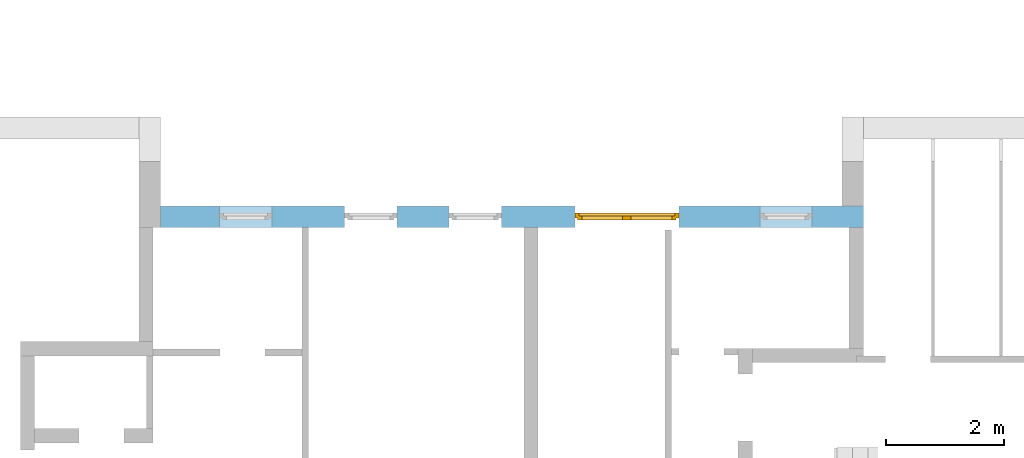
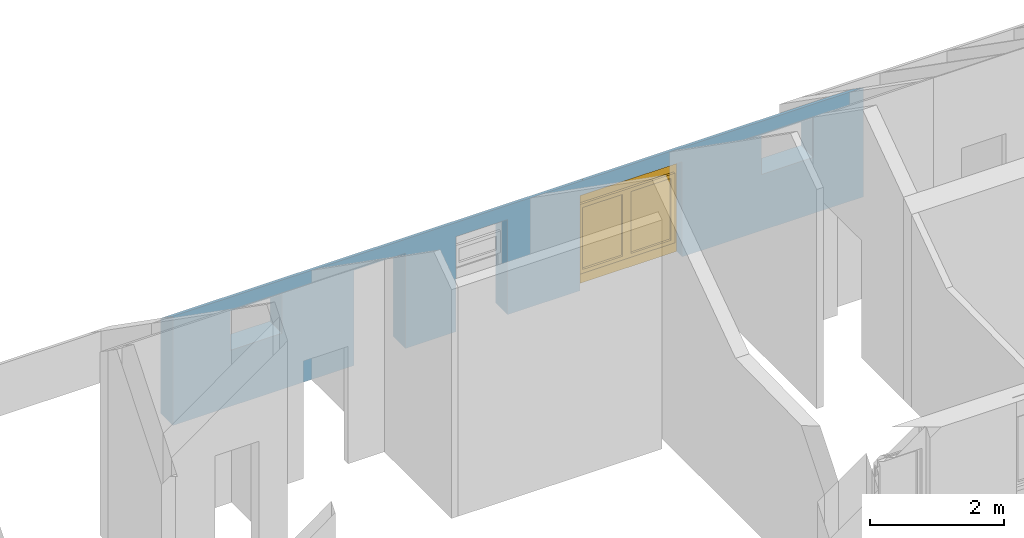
# One storey, part 21 of 23: 1 window, 5 openings, plus 1 element that does not belong to this part.
"""IFC2X3 building model written with IfcOpenShell, lengths in millimetres."""

import ifcopenshell
import ifcopenshell.guid

model = None  # the IFC model being written
_history = None  # IfcOwnerHistory: only IFC2X3 demands one
_inside = {}  # id of a spatial element -> (the spatial element, [elements in it])
_under = {}  # id of a project, library or spatial element -> (it, [spatial elements below it])
_declared = {}  # id of a project -> (the project, [libraries it declares])
_typed = {}  # id of a type object -> (the type object, [elements of that type])
_made_of = {}  # id of a material, layer set ... -> (it, [elements and type objects made of it])


def new_model(schema):
    """Start an empty IFC model of exactly this schema.

    Asked for "IFC4X3", IfcOpenShell would pick the latest addendum, in which some entities
    have other attributes; the version numbers below select the first issue.
    IFC2X3 requires an IfcOwnerHistory on every rooted entity: one is made here for all.
    """
    global model, _history
    if schema == "IFC4X3":
        model = ifcopenshell.file(schema_version=(4, 3, 0, 0))
    else:
        model = ifcopenshell.file(schema=schema)
    _inside.clear()
    _under.clear()
    _declared.clear()
    _typed.clear()
    _made_of.clear()
    _history = None
    if model.schema == "IFC2X3":
        org = make("IfcOrganization", Name="unknown")
        user = make(
            "IfcPersonAndOrganization",
            ThePerson=make("IfcPerson", FamilyName="unknown"),
            TheOrganization=org,
        )
        app = make(
            "IfcApplication",
            ApplicationDeveloper=org,
            Version="unknown",
            ApplicationFullName="unknown",
            ApplicationIdentifier="unknown",
        )
        _history = make(
            "IfcOwnerHistory",
            OwningUser=user,
            OwningApplication=app,
            ChangeAction="ADDED",
            CreationDate=0,
        )
    return model


def make(cls, **values):
    """One entity of the class cls with the attributes given. An attribute that is None is left unset."""
    return model.create_entity(
        cls, **{name: value for name, value in values.items() if value is not None}
    )


def entity(cls, *values):
    """Any entity or typed value of the class cls, its attributes in the order of the schema. None: left unset."""
    e = model.create_entity(cls)
    for i, value in enumerate(values):
        if value is not None:
            e[i] = value
    return e


def rooted(cls, **values):
    """An entity with a GlobalId (a new one), such as an element, a storey or a relation."""
    return make(cls, GlobalId=ifcopenshell.guid.new(), OwnerHistory=_history, **values)


def si_unit(unit_type, name, prefix=None):
    """IfcSIUnit, for example si_unit("LENGTHUNIT", "METRE", prefix="MILLI")."""
    return make("IfcSIUnit", UnitType=unit_type, Prefix=prefix, Name=name)


def converted_unit(unit_type, name, factor, base, dimensions=None, offset=None):
    """IfcConversionBasedUnit, such as the inch: factor (a typed value) times the base unit."""
    return make(
        "IfcConversionBasedUnit"
        if offset is None
        else "IfcConversionBasedUnitWithOffset",
        ConversionOffset=offset,
        Dimensions=None
        if dimensions is None
        else entity("IfcDimensionalExponents", *dimensions),
        UnitType=unit_type,
        Name=name,
        ConversionFactor=make(
            "IfcMeasureWithUnit", ValueComponent=factor, UnitComponent=base
        ),
    )


def assignment(units):
    """IfcUnitAssignment: the units of a project."""
    return None if units is None else make("IfcUnitAssignment", Units=units)


def point(xyz):
    """IfcCartesianPoint."""
    return None if xyz is None else make("IfcCartesianPoint", Coordinates=xyz)


def direction(xyz):
    """IfcDirection."""
    return None if xyz is None else make("IfcDirection", DirectionRatios=xyz)


def frame(location, z_axis=None, x_axis=None):
    """IfcAxis2Placement3D, a coordinate frame: its origin and axes. An axis left out is left unset."""
    return make(
        "IfcAxis2Placement3D",
        Location=point(location),
        Axis=direction(z_axis),
        RefDirection=direction(x_axis),
    )


def frame_2d(location, x_axis=None):
    """IfcAxis2Placement2D, a coordinate frame in the plane: its origin and x axis."""
    return make(
        "IfcAxis2Placement2D", Location=point(location), RefDirection=direction(x_axis)
    )


def origin():
    """The frame at (0, 0, 0) with its axes left unset."""
    return frame((0.0, 0.0, 0.0))


def origin_with_axes():
    """The frame at (0, 0, 0) with the z axis (0, 0, 1) and the x axis (1, 0, 0) written out."""
    return frame((0.0, 0.0, 0.0), z_axis=(0.0, 0.0, 1.0), x_axis=(1.0, 0.0, 0.0))


def place(relative_to, where):
    """IfcLocalPlacement: puts the frame where relative to a parent placement (None: the world)."""
    return make(
        "IfcLocalPlacement", PlacementRelTo=relative_to, RelativePlacement=where
    )


def context(
    kind, dimensions, precision=None, world=None, true_north=None, identifier=None
):
    """IfcGeometricRepresentationContext, for example the 3D "Model" context."""
    return make(
        "IfcGeometricRepresentationContext",
        ContextIdentifier=identifier,
        ContextType=kind,
        CoordinateSpaceDimension=dimensions,
        Precision=precision,
        WorldCoordinateSystem=world,
        TrueNorth=true_north,
    )


def subcontext(parent, identifier, kind, view, scale=None):
    """IfcGeometricRepresentationSubContext, for example "Body" below "Model"."""
    return make(
        "IfcGeometricRepresentationSubContext",
        ContextIdentifier=identifier,
        ContextType=kind,
        ParentContext=parent,
        TargetScale=scale,
        TargetView=view,
    )


def project(units=None, contexts=None):
    """IfcProject with its units and contexts."""
    return rooted(
        "IfcProject",
        Name="project",
        RepresentationContexts=contexts,
        UnitsInContext=assignment(units),
    )


def spatial(cls, under=None, at=None, **own):
    """A site, building, storey or space (cls), placed at a placement, below another one or the project."""
    s = rooted(cls, ObjectPlacement=at, **own)
    if under is not None:
        _under.setdefault(under.id(), (under, []))[1].append(s)
    return s


def profile(cls, at=None, kind="AREA", **sizes):
    """A parametric profile (cls). Its sizes go by their IFC names, for example OverallWidth=200.0."""
    return make(cls, ProfileType=kind, Position=at, **sizes)


def rectangle(**sizes):
    """IfcRectangleProfileDef."""
    return profile("IfcRectangleProfileDef", **sizes)


def extrude(swept, where, along, depth):
    """IfcExtrudedAreaSolid: the profile swept, set in the frame where, extruded along a direction by depth."""
    return make(
        "IfcExtrudedAreaSolid",
        SweptArea=swept,
        Position=where,
        ExtrudedDirection=direction(along),
        Depth=depth,
    )


def clip(a, b, op="DIFFERENCE"):
    """IfcBooleanClippingResult: the solid a cut by the half space b."""
    return make(
        "IfcBooleanClippingResult", Operator=op, FirstOperand=a, SecondOperand=b
    )


def halfspace(plane, agree):
    """IfcHalfSpaceSolid: all space on one side of the plane z = 0 of the frame plane."""
    return make(
        "IfcHalfSpaceSolid",
        BaseSurface=make("IfcPlane", Position=plane),
        AgreementFlag=agree,
    )


def faces_of(points, faces, orient=None, outer=None):
    """IfcFace entities. A face is a list of loops; a loop is a list of indices into points, from 0.

    orient and outer hold one flag for each loop. By default every Orientation is true, the
    first loop of a face is its IfcFaceOuterBound and the others are IfcFaceBound.
    """
    made = []
    for i, loops in enumerate(faces):
        bounds = []
        for j, loop in enumerate(loops):
            is_outer = j == 0 if outer is None else outer[i][j]
            bounds.append(
                make(
                    "IfcFaceOuterBound" if is_outer else "IfcFaceBound",
                    Bound=make("IfcPolyLoop", Polygon=[points[k] for k in loop]),
                    Orientation=True if orient is None else orient[i][j],
                )
            )
        made.append(make("IfcFace", Bounds=bounds))
    return made


def faceted_brep(points, faces, orient=None, outer=None, voids=None):
    """IfcFacetedBrep: a solid bounded by flat faces; with voids (closed shells), ...WithVoids."""
    shared = [point(p) for p in points]
    hull = make("IfcClosedShell", CfsFaces=faces_of(shared, faces, orient, outer))
    if voids is None:
        return make("IfcFacetedBrep", Outer=hull)
    return make(
        "IfcFacetedBrepWithVoids",
        Outer=hull,
        Voids=[
            make(cls, CfsFaces=faces_of(shared, fs, o, b)) for cls, fs, o, b in voids
        ],
    )


def shape(context_of_items, identifier, shape_type, items):
    """IfcShapeRepresentation: the items that make up one representation, for example the "Body"."""
    return make(
        "IfcShapeRepresentation",
        ContextOfItems=context_of_items,
        RepresentationIdentifier=identifier,
        RepresentationType=shape_type,
        Items=items,
    )


def material(Name=None, Category=None):
    """IfcMaterial."""
    return make("IfcMaterial", Name=Name, Category=Category)


def layer(
    of_material, thickness, ventilated=None, Name=None, Category=None, Priority=None
):
    """IfcMaterialLayer: one layer of a wall or slab, of a material (None: an air gap)."""
    return make(
        "IfcMaterialLayer",
        Material=of_material,
        LayerThickness=thickness,
        IsVentilated=ventilated,
        Name=Name,
        Category=Category,
        Priority=Priority,
    )


def layer_set(layers, Name=None):
    """IfcMaterialLayerSet."""
    return make("IfcMaterialLayerSet", MaterialLayers=layers, LayerSetName=Name)


def layer_usage(for_layer_set, set_direction, sense, offset, extent=None):
    """IfcMaterialLayerSetUsage: how a layer set lies in its element."""
    return make(
        "IfcMaterialLayerSetUsage",
        ForLayerSet=for_layer_set,
        LayerSetDirection=set_direction,
        DirectionSense=sense,
        OffsetFromReferenceLine=offset,
        ReferenceExtent=extent,
    )


def made_of(thing, what):
    """Note that an element or type object is made of a material, layer set ...; save() writes the relation."""
    if what is not None:
        _made_of.setdefault(what.id(), (what, []))[1].append(thing)
    return thing


def type_object(cls, material=None, **own):
    """A type object (cls), such as IfcWallType, which elements share."""
    return made_of(rooted(cls, **own), material)


def element(
    cls,
    number,
    at=None,
    inside=None,
    cuts=None,
    type_object=None,
    material=None,
    context=None,
    identifier="Body",
    shape_type=None,
    held_by="IfcProductDefinitionShape",
    body=None,
    shapes=None,
    **own,
):
    """One element of the class cls, such as IfcWall. Its Tag is "e" and its number.

    at: its placement. inside: the storey or other place that contains it. cuts: it is an
    opening in that element (IfcRelVoidsElement). A single representation is given by context,
    identifier, shape_type and body (its items); several are given by shapes. held_by: the class
    of the entity that holds the representations. save() writes the other relations.
    """
    e = rooted(cls, Tag="e%d" % number, ObjectPlacement=at, **own)
    if body is not None:
        shapes = [shape(context, identifier, shape_type, body)]
    if shapes is not None:
        e.Representation = make(held_by, Representations=shapes)
    if inside is not None:
        _inside.setdefault(inside.id(), (inside, []))[1].append(e)
    if cuts is not None:
        rooted(
            "IfcRelVoidsElement", RelatingBuildingElement=cuts, RelatedOpeningElement=e
        )
    if type_object is not None:
        _typed.setdefault(type_object.id(), (type_object, []))[1].append(e)
    return made_of(e, material)


def fill(opening, filler):
    """IfcRelFillsElement: the door or window that sits in an opening."""
    return rooted(
        "IfcRelFillsElement",
        RelatingOpeningElement=opening,
        RelatedBuildingElement=filler,
    )


def aggregate(whole, parts):
    """IfcRelAggregates: a whole, such as a stair, and the parts it consists of."""
    return rooted("IfcRelAggregates", RelatingObject=whole, RelatedObjects=parts)


def save(model, path):
    """Write the relations noted so far, then the file.

    IfcRelAggregates (storeys below a building ...), IfcRelContainedInSpatialStructure (elements
    in a storey), IfcRelDefinesByType, IfcRelAssociatesMaterial and IfcRelDeclares: one each for
    every whole, place, type object, material and project.
    """
    for whole, parts in _under.values():
        aggregate(whole, parts)
    for where, things in _inside.values():
        rooted(
            "IfcRelContainedInSpatialStructure",
            RelatedElements=things,
            RelatingStructure=where,
        )
    for kind, things in _typed.values():
        rooted("IfcRelDefinesByType", RelatedObjects=things, RelatingType=kind)
    for what, things in _made_of.values():
        rooted("IfcRelAssociatesMaterial", RelatedObjects=things, RelatingMaterial=what)
    for by, libraries in _declared.values():
        rooted("IfcRelDeclares", RelatingContext=by, RelatedDefinitions=libraries)
    model.write(path)


model = new_model("IFC2X3")

# Units and contexts
model_context = context("Model", 3, precision=1e-05, world=origin())
body_context = subcontext(model_context, "Body", "Model", "MODEL_VIEW")
ifc_project = project(units=[si_unit("LENGTHUNIT", "METRE", prefix="MILLI"), converted_unit("PLANEANGLEUNIT", "DEGREE", entity("IfcPlaneAngleMeasure", 0.0174532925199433), si_unit("PLANEANGLEUNIT", "RADIAN"), dimensions=[0, 0, 0, 0, 0, 0, 0]), si_unit("AREAUNIT", "SQUARE_METRE"), si_unit("VOLUMEUNIT", "CUBIC_METRE")], contexts=[model_context])

# Building, storey
building_placement = place(None, origin())
building = spatial("IfcBuilding", under=ifc_project, at=building_placement, Name="Gebäude", CompositionType="ELEMENT")
storey_placement = place(building_placement, frame((0.0, 0.0, 5580.0), z_axis=(0.0, 0.0, 1.0), x_axis=(1.0, 0.0, 0.0)))
storey = spatial("IfcBuildingStorey", under=building, at=storey_placement, Name="DG.- Grundriss", CompositionType="ELEMENT", Elevation=5580.0)

# Wall, openings, window
ifc_material_1 = material(Name="Poroton")
ifc_layer = layer(ifc_material_1, 365.0000000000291)
ifc_layer_set = layer_set([ifc_layer])
ifc_layer_usage = layer_usage(ifc_layer_set, "AXIS2", "POSITIVE", 0.0)
wall_placement = place(storey_placement, frame((176237.7928067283, 134774.8877324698, 0.0), z_axis=(0.0, 0.0, 1.0), x_axis=(-1.0, 0.0, 0.0)))
wall = element("IfcWallStandardCase", 1, at=wall_placement, inside=storey, material=ifc_layer_usage, Name="<Unnamed Element>", context=body_context, shape_type="Clipping", body=[
    clip(extrude(rectangle(XDim=11869.99999999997, YDim=365.0000000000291, at=frame_2d((5934.999999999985, 182.5000000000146), x_axis=(1.0, 0.0))), origin_with_axes(), (0.0, 0.0, 1.0), 1985.88705876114), halfspace(frame((0.0, 0.0, 1730.311307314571), z_axis=(3.082338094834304e-17, 0.5735764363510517, -0.8191520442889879), x_axis=(1.0, 0.0, 0.0)), True)),
])
opening_1_placement = place(wall_placement, frame((7875.000000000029, 0.0, 0.0), z_axis=(0.0, 1.0, 0.0), x_axis=(0.0, 0.0, 1.0)))
element("IfcOpeningElement", 2, at=opening_1_placement, cuts=wall, Name="Fensteröffnung", ObjectType="Opening", context=body_context, shape_type="SweptSolid", body=[
    extrude(rectangle(XDim=1730.311307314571, YDim=885.0, at=frame_2d((865.1556536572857, 442.5), x_axis=(1.0, 0.0))), origin_with_axes(), (0.0, 0.0, 1.0), 365.0000000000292),
])
opening_2_placement = place(wall_placement, frame((6115.000000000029, 0.0, 0.0), z_axis=(0.0, 1.0, 0.0), x_axis=(0.0, 0.0, 1.0)))
element("IfcOpeningElement", 3, at=opening_2_placement, cuts=wall, Name="Fensteröffnung", ObjectType="Opening", context=body_context, shape_type="SweptSolid", body=[
    extrude(rectangle(XDim=1730.311307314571, YDim=885.0, at=frame_2d((865.1556536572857, 442.5), x_axis=(1.0, 0.0))), origin_with_axes(), (0.0, 0.0, 1.0), 365.0000000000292),
])
opening_3_placement = place(wall_placement, frame((9990.00000000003, 0.0, 1020.0), z_axis=(0.0, 1.0, 0.0), x_axis=(0.0, 0.0, 1.0)))
element("IfcOpeningElement", 4, at=opening_3_placement, cuts=wall, Name="Fensteröffnung", ObjectType="Opening", context=body_context, shape_type="SweptSolid", body=[
    extrude(rectangle(XDim=710.3113073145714, YDim=885.0, at=frame_2d((355.1556536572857, 442.5), x_axis=(1.0, 0.0))), origin_with_axes(), (0.0, 0.0, 1.0), 365.0000000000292),
])
opening_4_placement = place(wall_placement, frame((3115.000000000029, 0.0, 0.0), z_axis=(0.0, 1.0, 0.0), x_axis=(0.0, 0.0, 1.0)))
opening_4 = element("IfcOpeningElement", 5, at=opening_4_placement, cuts=wall, Name="Fensteröffnung", ObjectType="Opening", context=body_context, shape_type="SweptSolid", body=[
    extrude(rectangle(XDim=1730.311307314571, YDim=1760.0, at=frame_2d((865.1556536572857, 880.0), x_axis=(1.0, 0.0))), origin_with_axes(), (0.0, 0.0, 1.0), 365.0000000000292),
])
opening_5_placement = place(wall_placement, frame((865.0000000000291, 0.0, 1020.0), z_axis=(0.0, 1.0, 0.0), x_axis=(0.0, 0.0, 1.0)))
element("IfcOpeningElement", 6, at=opening_5_placement, cuts=wall, Name="Fensteröffnung", ObjectType="Opening", context=body_context, shape_type="SweptSolid", body=[
    extrude(rectangle(XDim=710.3113073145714, YDim=885.0, at=frame_2d((355.1556536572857, 442.5), x_axis=(1.0, 0.0))), origin_with_axes(), (0.0, 0.0, 1.0), 365.0000000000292),
])
ifc_material_2 = material()
window_style = type_object("IfcWindowStyle", Name="Fenster", ConstructionType="NOTDEFINED", OperationType="USERDEFINED", ParameterTakesPrecedence=False, Sizeable=False)
window_placement = place(opening_4_placement, frame((0.0, 0.0, 0.0), z_axis=(1.0, 0.0, 0.0), x_axis=(0.0, 1.0, 0.0)))
window = element("IfcWindow", 7, at=window_placement, inside=storey, type_object=window_style, material=ifc_material_2, Name="Fenster", OverallHeight=1985.887058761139, OverallWidth=1760.0, context=body_context, shape_type="Brep", body=[
    faceted_brep([(9.79717439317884e-15, 200.0000000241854, 1814.336211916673), (9.797174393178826e-15, 200.0000000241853, -2.449293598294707e-15), (70.00000000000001, 200.0000000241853, -2.449293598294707e-15), (70.00000000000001, 200.0000000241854, 1814.336211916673), (0.0, 120.0000000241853, 2.449293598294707e-15), (1.392262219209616e-29, 120.0000000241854, 1814.336211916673), (70.0, 120.0000000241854, 1814.336211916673), (70.0, 120.0000000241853, 2.449293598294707e-15), (9.797174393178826e-15, 200.0000000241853, -2.449293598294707e-15), (9.79717439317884e-15, 200.0000000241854, 1814.336211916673), (1.392262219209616e-29, 120.0000000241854, 1814.336211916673), (0.0, 120.0000000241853, 2.449293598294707e-15), (70.00000000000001, 200.0000000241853, -2.449293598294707e-15), (9.797174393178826e-15, 200.0000000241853, -2.449293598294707e-15), (0.0, 120.0000000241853, 2.449293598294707e-15), (70.0, 120.0000000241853, 2.449293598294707e-15), (70.00000000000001, 200.0000000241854, 1814.336211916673), (70.00000000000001, 200.0000000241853, -2.449293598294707e-15), (70.0, 120.0000000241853, 2.449293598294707e-15), (70.0, 120.0000000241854, 1814.336211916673), (9.79717439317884e-15, 200.0000000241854, 1814.336211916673), (70.00000000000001, 200.0000000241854, 1814.336211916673), (70.0, 120.0000000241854, 1814.336211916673), (1.392262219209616e-29, 120.0000000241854, 1814.336211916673)], [[[0, 1, 2, 3]], [[4, 5, 6, 7]], [[8, 9, 10, 11]], [[12, 13, 14, 15]], [[16, 17, 18, 19]], [[20, 21, 22, 23]]], orient=[[False], [False], [False], [False], [False], [False]]),
    faceted_brep([(1690.000000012, 200.0000000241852, 1814.336211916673), (1690.000000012, 200.0000000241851, -2.449293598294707e-15), (1760.000000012, 200.0000000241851, -2.449293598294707e-15), (1760.000000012, 200.0000000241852, 1814.336211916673), (1690.000000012, 120.0000000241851, 2.449293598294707e-15), (1690.000000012, 120.0000000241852, 1814.336211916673), (1760.000000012, 120.0000000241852, 1814.336211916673), (1760.000000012, 120.0000000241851, 2.449293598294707e-15), (1690.000000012, 200.0000000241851, -2.449293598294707e-15), (1690.000000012, 200.0000000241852, 1814.336211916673), (1690.000000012, 120.0000000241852, 1814.336211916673), (1690.000000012, 120.0000000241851, 2.449293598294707e-15), (1760.000000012, 200.0000000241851, -2.449293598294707e-15), (1690.000000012, 200.0000000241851, -2.449293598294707e-15), (1690.000000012, 120.0000000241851, 2.449293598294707e-15), (1760.000000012, 120.0000000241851, 2.449293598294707e-15), (1760.000000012, 200.0000000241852, 1814.336211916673), (1760.000000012, 200.0000000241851, -2.449293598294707e-15), (1760.000000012, 120.0000000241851, 2.449293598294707e-15), (1760.000000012, 120.0000000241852, 1814.336211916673), (1690.000000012, 200.0000000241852, 1814.336211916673), (1760.000000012, 200.0000000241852, 1814.336211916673), (1760.000000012, 120.0000000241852, 1814.336211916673), (1690.000000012, 120.0000000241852, 1814.336211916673)], [[[0, 1, 2, 3]], [[4, 5, 6, 7]], [[8, 9, 10, 11]], [[12, 13, 14, 15]], [[16, 17, 18, 19]], [[20, 21, 22, 23]]], orient=[[False], [False], [False], [False], [False], [False]]),
    faceted_brep([(70.00000000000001, 200.0000000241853, 220.0), (70.00000000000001, 200.0000000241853, -2.449293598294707e-15), (1690.000000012, 200.0000000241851, -2.449293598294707e-15), (1690.000000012, 200.0000000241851, 220.0), (70.0, 120.0000000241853, 2.449293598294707e-15), (70.0, 120.0000000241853, 220.0), (1690.000000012, 120.0000000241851, 220.0), (1690.000000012, 120.0000000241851, 2.449293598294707e-15), (70.00000000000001, 200.0000000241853, -2.449293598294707e-15), (70.00000000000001, 200.0000000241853, 220.0), (70.0, 120.0000000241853, 220.0), (70.0, 120.0000000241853, 2.449293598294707e-15), (1690.000000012, 200.0000000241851, -2.449293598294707e-15), (70.00000000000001, 200.0000000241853, -2.449293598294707e-15), (70.0, 120.0000000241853, 2.449293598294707e-15), (1690.000000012, 120.0000000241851, 2.449293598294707e-15), (1690.000000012, 200.0000000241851, 220.0), (1690.000000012, 200.0000000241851, -2.449293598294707e-15), (1690.000000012, 120.0000000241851, 2.449293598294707e-15), (1690.000000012, 120.0000000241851, 220.0), (70.00000000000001, 200.0000000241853, 220.0), (1690.000000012, 200.0000000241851, 220.0), (1690.000000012, 120.0000000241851, 220.0), (70.0, 120.0000000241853, 220.0)], [[[0, 1, 2, 3]], [[4, 5, 6, 7]], [[8, 9, 10, 11]], [[12, 13, 14, 15]], [[16, 17, 18, 19]], [[20, 21, 22, 23]]], orient=[[False], [False], [False], [False], [False], [False]]),
    faceted_brep([(70.00000000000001, 200.0000000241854, 1814.336211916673), (70.00000000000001, 200.0000000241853, 1444.336211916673), (1690.000000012, 200.0000000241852, 1444.336211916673), (1690.000000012, 200.0000000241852, 1814.336211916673), (70.0, 120.0000000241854, 1444.336211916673), (70.0, 120.0000000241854, 1814.336211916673), (1690.000000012, 120.0000000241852, 1814.336211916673), (1690.000000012, 120.0000000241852, 1444.336211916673), (70.00000000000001, 200.0000000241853, 1444.336211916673), (70.00000000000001, 200.0000000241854, 1814.336211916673), (70.0, 120.0000000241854, 1814.336211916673), (70.0, 120.0000000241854, 1444.336211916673), (1690.000000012, 200.0000000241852, 1444.336211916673), (70.00000000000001, 200.0000000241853, 1444.336211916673), (70.0, 120.0000000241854, 1444.336211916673), (1690.000000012, 120.0000000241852, 1444.336211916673), (1690.000000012, 200.0000000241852, 1814.336211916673), (1690.000000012, 200.0000000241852, 1444.336211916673), (1690.000000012, 120.0000000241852, 1444.336211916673), (1690.000000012, 120.0000000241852, 1814.336211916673), (70.00000000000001, 200.0000000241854, 1814.336211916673), (1690.000000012, 200.0000000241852, 1814.336211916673), (1690.000000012, 120.0000000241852, 1814.336211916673), (70.0, 120.0000000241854, 1814.336211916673)], [[[0, 1, 2, 3]], [[4, 5, 6, 7]], [[8, 9, 10, 11]], [[12, 13, 14, 15]], [[16, 17, 18, 19]], [[20, 21, 22, 23]]], orient=[[False], [False], [False], [False], [False], [False]]),
    faceted_brep([(50.00000000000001, 240.0000000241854, 1464.336211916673), (50.00000000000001, 240.0000000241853, 200.0), (120.0, 240.0000000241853, 200.0), (120.0, 240.0000000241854, 1464.336211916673), (50.00000000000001, 170.0000000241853, 200.0), (50.00000000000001, 170.0000000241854, 1464.336211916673), (120.0, 170.0000000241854, 1464.336211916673), (120.0, 170.0000000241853, 200.0), (50.00000000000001, 240.0000000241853, 200.0), (50.00000000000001, 240.0000000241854, 1464.336211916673), (50.00000000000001, 170.0000000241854, 1464.336211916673), (50.00000000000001, 170.0000000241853, 200.0), (120.0, 240.0000000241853, 200.0), (50.00000000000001, 240.0000000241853, 200.0), (50.00000000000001, 170.0000000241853, 200.0), (120.0, 170.0000000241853, 200.0), (120.0, 240.0000000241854, 1464.336211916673), (120.0, 240.0000000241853, 200.0), (120.0, 170.0000000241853, 200.0), (120.0, 170.0000000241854, 1464.336211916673), (50.00000000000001, 240.0000000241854, 1464.336211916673), (120.0, 240.0000000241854, 1464.336211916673), (120.0, 170.0000000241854, 1464.336211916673), (50.00000000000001, 170.0000000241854, 1464.336211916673)], [[[0, 1, 2, 3]], [[4, 5, 6, 7]], [[8, 9, 10, 11]], [[12, 13, 14, 15]], [[16, 17, 18, 19]], [[20, 21, 22, 23]]], orient=[[False], [False], [False], [False], [False], [False]]),
    faceted_brep([(809.5000000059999, 240.0000000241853, 1464.336211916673), (809.5000000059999, 240.0000000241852, 200.0), (879.5000000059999, 240.0000000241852, 200.0), (879.5000000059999, 240.0000000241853, 1464.336211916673), (809.5000000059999, 170.0000000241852, 200.0), (809.5000000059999, 170.0000000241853, 1464.336211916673), (879.5000000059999, 170.0000000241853, 1464.336211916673), (879.5000000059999, 170.0000000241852, 200.0), (809.5000000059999, 240.0000000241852, 200.0), (809.5000000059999, 240.0000000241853, 1464.336211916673), (809.5000000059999, 170.0000000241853, 1464.336211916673), (809.5000000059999, 170.0000000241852, 200.0), (879.5000000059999, 240.0000000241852, 200.0), (809.5000000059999, 240.0000000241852, 200.0), (809.5000000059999, 170.0000000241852, 200.0), (879.5000000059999, 170.0000000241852, 200.0), (879.5000000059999, 240.0000000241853, 1464.336211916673), (879.5000000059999, 240.0000000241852, 200.0), (879.5000000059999, 170.0000000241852, 200.0), (879.5000000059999, 170.0000000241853, 1464.336211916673), (809.5000000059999, 240.0000000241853, 1464.336211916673), (879.5000000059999, 240.0000000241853, 1464.336211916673), (879.5000000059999, 170.0000000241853, 1464.336211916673), (809.5000000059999, 170.0000000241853, 1464.336211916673)], [[[0, 1, 2, 3]], [[4, 5, 6, 7]], [[8, 9, 10, 11]], [[12, 13, 14, 15]], [[16, 17, 18, 19]], [[20, 21, 22, 23]]], orient=[[False], [False], [False], [False], [False], [False]]),
    faceted_brep([(120.0, 240.0000000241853, 270.0), (120.0, 240.0000000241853, 200.0), (809.5000000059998, 240.0000000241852, 200.0), (809.5000000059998, 240.0000000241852, 270.0), (120.0, 170.0000000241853, 200.0), (120.0, 170.0000000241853, 270.0), (809.5000000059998, 170.0000000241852, 270.0), (809.5000000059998, 170.0000000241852, 200.0), (120.0, 240.0000000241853, 200.0), (120.0, 240.0000000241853, 270.0), (120.0, 170.0000000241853, 270.0), (120.0, 170.0000000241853, 200.0), (809.5000000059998, 240.0000000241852, 200.0), (120.0, 240.0000000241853, 200.0), (120.0, 170.0000000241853, 200.0), (809.5000000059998, 170.0000000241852, 200.0), (809.5000000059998, 240.0000000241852, 270.0), (809.5000000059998, 240.0000000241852, 200.0), (809.5000000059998, 170.0000000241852, 200.0), (809.5000000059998, 170.0000000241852, 270.0), (120.0, 240.0000000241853, 270.0), (809.5000000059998, 240.0000000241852, 270.0), (809.5000000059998, 170.0000000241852, 270.0), (120.0, 170.0000000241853, 270.0)], [[[0, 1, 2, 3]], [[4, 5, 6, 7]], [[8, 9, 10, 11]], [[12, 13, 14, 15]], [[16, 17, 18, 19]], [[20, 21, 22, 23]]], orient=[[False], [False], [False], [False], [False], [False]]),
    faceted_brep([(120.0, 240.0000000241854, 1464.336211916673), (120.0, 240.0000000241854, 1394.336211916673), (809.5000000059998, 240.0000000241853, 1394.336211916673), (809.5000000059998, 240.0000000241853, 1464.336211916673), (120.0, 170.0000000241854, 1394.336211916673), (120.0, 170.0000000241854, 1464.336211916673), (809.5000000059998, 170.0000000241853, 1464.336211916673), (809.5000000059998, 170.0000000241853, 1394.336211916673), (120.0, 240.0000000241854, 1394.336211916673), (120.0, 240.0000000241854, 1464.336211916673), (120.0, 170.0000000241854, 1464.336211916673), (120.0, 170.0000000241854, 1394.336211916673), (809.5000000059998, 240.0000000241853, 1394.336211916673), (120.0, 240.0000000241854, 1394.336211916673), (120.0, 170.0000000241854, 1394.336211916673), (809.5000000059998, 170.0000000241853, 1394.336211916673), (809.5000000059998, 240.0000000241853, 1464.336211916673), (809.5000000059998, 240.0000000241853, 1394.336211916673), (809.5000000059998, 170.0000000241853, 1394.336211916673), (809.5000000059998, 170.0000000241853, 1464.336211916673), (120.0, 240.0000000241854, 1464.336211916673), (809.5000000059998, 240.0000000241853, 1464.336211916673), (809.5000000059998, 170.0000000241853, 1464.336211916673), (120.0, 170.0000000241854, 1464.336211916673)], [[[0, 1, 2, 3]], [[4, 5, 6, 7]], [[8, 9, 10, 11]], [[12, 13, 14, 15]], [[16, 17, 18, 19]], [[20, 21, 22, 23]]], orient=[[False], [False], [False], [False], [False], [False]]),
    faceted_brep([(880.5000000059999, 240.0000000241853, 1464.336211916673), (880.5000000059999, 240.0000000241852, 200.0), (950.5000000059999, 240.0000000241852, 200.0), (950.5000000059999, 240.0000000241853, 1464.336211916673), (880.5000000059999, 170.0000000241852, 200.0), (880.5000000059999, 170.0000000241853, 1464.336211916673), (950.5000000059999, 170.0000000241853, 1464.336211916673), (950.5000000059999, 170.0000000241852, 200.0), (880.5000000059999, 240.0000000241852, 200.0), (880.5000000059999, 240.0000000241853, 1464.336211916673), (880.5000000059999, 170.0000000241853, 1464.336211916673), (880.5000000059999, 170.0000000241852, 200.0), (950.5000000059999, 240.0000000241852, 200.0), (880.5000000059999, 240.0000000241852, 200.0), (880.5000000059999, 170.0000000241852, 200.0), (950.5000000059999, 170.0000000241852, 200.0), (950.5000000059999, 240.0000000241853, 1464.336211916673), (950.5000000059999, 240.0000000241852, 200.0), (950.5000000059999, 170.0000000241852, 200.0), (950.5000000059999, 170.0000000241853, 1464.336211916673), (880.5000000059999, 240.0000000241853, 1464.336211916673), (950.5000000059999, 240.0000000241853, 1464.336211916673), (950.5000000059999, 170.0000000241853, 1464.336211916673), (880.5000000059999, 170.0000000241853, 1464.336211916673)], [[[0, 1, 2, 3]], [[4, 5, 6, 7]], [[8, 9, 10, 11]], [[12, 13, 14, 15]], [[16, 17, 18, 19]], [[20, 21, 22, 23]]], orient=[[False], [False], [False], [False], [False], [False]]),
    faceted_brep([(1640.000000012, 240.0000000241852, 1464.336211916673), (1640.000000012, 240.0000000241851, 200.0), (1710.000000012, 240.0000000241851, 200.0), (1710.000000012, 240.0000000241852, 1464.336211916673), (1640.000000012, 170.0000000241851, 200.0), (1640.000000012, 170.0000000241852, 1464.336211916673), (1710.000000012, 170.0000000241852, 1464.336211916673), (1710.000000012, 170.0000000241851, 200.0), (1640.000000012, 240.0000000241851, 200.0), (1640.000000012, 240.0000000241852, 1464.336211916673), (1640.000000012, 170.0000000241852, 1464.336211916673), (1640.000000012, 170.0000000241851, 200.0), (1710.000000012, 240.0000000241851, 200.0), (1640.000000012, 240.0000000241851, 200.0), (1640.000000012, 170.0000000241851, 200.0), (1710.000000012, 170.0000000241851, 200.0), (1710.000000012, 240.0000000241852, 1464.336211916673), (1710.000000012, 240.0000000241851, 200.0), (1710.000000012, 170.0000000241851, 200.0), (1710.000000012, 170.0000000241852, 1464.336211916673), (1640.000000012, 240.0000000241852, 1464.336211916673), (1710.000000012, 240.0000000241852, 1464.336211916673), (1710.000000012, 170.0000000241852, 1464.336211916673), (1640.000000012, 170.0000000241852, 1464.336211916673)], [[[0, 1, 2, 3]], [[4, 5, 6, 7]], [[8, 9, 10, 11]], [[12, 13, 14, 15]], [[16, 17, 18, 19]], [[20, 21, 22, 23]]], orient=[[False], [False], [False], [False], [False], [False]]),
    faceted_brep([(950.5000000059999, 240.0000000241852, 270.0), (950.5000000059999, 240.0000000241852, 200.0), (1640.000000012, 240.0000000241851, 200.0), (1640.000000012, 240.0000000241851, 270.0), (950.5000000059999, 170.0000000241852, 200.0), (950.5000000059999, 170.0000000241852, 270.0), (1640.000000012, 170.0000000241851, 270.0), (1640.000000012, 170.0000000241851, 200.0), (950.5000000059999, 240.0000000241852, 200.0), (950.5000000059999, 240.0000000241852, 270.0), (950.5000000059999, 170.0000000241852, 270.0), (950.5000000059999, 170.0000000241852, 200.0), (1640.000000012, 240.0000000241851, 200.0), (950.5000000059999, 240.0000000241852, 200.0), (950.5000000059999, 170.0000000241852, 200.0), (1640.000000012, 170.0000000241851, 200.0), (1640.000000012, 240.0000000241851, 270.0), (1640.000000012, 240.0000000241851, 200.0), (1640.000000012, 170.0000000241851, 200.0), (1640.000000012, 170.0000000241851, 270.0), (950.5000000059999, 240.0000000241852, 270.0), (1640.000000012, 240.0000000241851, 270.0), (1640.000000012, 170.0000000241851, 270.0), (950.5000000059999, 170.0000000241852, 270.0)], [[[0, 1, 2, 3]], [[4, 5, 6, 7]], [[8, 9, 10, 11]], [[12, 13, 14, 15]], [[16, 17, 18, 19]], [[20, 21, 22, 23]]], orient=[[False], [False], [False], [False], [False], [False]]),
    faceted_brep([(950.5000000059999, 240.0000000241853, 1464.336211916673), (950.5000000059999, 240.0000000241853, 1394.336211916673), (1640.000000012, 240.0000000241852, 1394.336211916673), (1640.000000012, 240.0000000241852, 1464.336211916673), (950.5000000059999, 170.0000000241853, 1394.336211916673), (950.5000000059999, 170.0000000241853, 1464.336211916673), (1640.000000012, 170.0000000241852, 1464.336211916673), (1640.000000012, 170.0000000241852, 1394.336211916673), (950.5000000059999, 240.0000000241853, 1394.336211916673), (950.5000000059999, 240.0000000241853, 1464.336211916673), (950.5000000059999, 170.0000000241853, 1464.336211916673), (950.5000000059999, 170.0000000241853, 1394.336211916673), (1640.000000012, 240.0000000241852, 1394.336211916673), (950.5000000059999, 240.0000000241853, 1394.336211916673), (950.5000000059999, 170.0000000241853, 1394.336211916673), (1640.000000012, 170.0000000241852, 1394.336211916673), (1640.000000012, 240.0000000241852, 1464.336211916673), (1640.000000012, 240.0000000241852, 1394.336211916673), (1640.000000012, 170.0000000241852, 1394.336211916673), (1640.000000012, 170.0000000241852, 1464.336211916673), (950.5000000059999, 240.0000000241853, 1464.336211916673), (1640.000000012, 240.0000000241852, 1464.336211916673), (1640.000000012, 170.0000000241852, 1464.336211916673), (950.5000000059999, 170.0000000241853, 1464.336211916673)], [[[0, 1, 2, 3]], [[4, 5, 6, 7]], [[8, 9, 10, 11]], [[12, 13, 14, 15]], [[16, 17, 18, 19]], [[20, 21, 22, 23]]], orient=[[False], [False], [False], [False], [False], [False]]),
    faceted_brep([(120.0, 205.0000000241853, 270.0), (809.5000000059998, 205.0000000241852, 270.0), (809.5000000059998, 205.0000000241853, 1394.336211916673), (120.0, 205.0000000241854, 1394.336211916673), (120.0, 204.0000000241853, 270.0), (120.0, 204.0000000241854, 1394.336211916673), (809.5000000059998, 204.0000000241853, 1394.336211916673), (809.5000000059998, 204.0000000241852, 270.0), (120.0, 205.0000000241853, 270.0), (120.0, 204.0000000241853, 270.0), (809.5000000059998, 204.0000000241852, 270.0), (809.5000000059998, 205.0000000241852, 270.0), (809.5000000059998, 205.0000000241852, 270.0), (809.5000000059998, 204.0000000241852, 270.0), (809.5000000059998, 204.0000000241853, 1394.336211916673), (809.5000000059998, 205.0000000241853, 1394.336211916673), (809.5000000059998, 205.0000000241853, 1394.336211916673), (809.5000000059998, 204.0000000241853, 1394.336211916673), (120.0, 204.0000000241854, 1394.336211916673), (120.0, 205.0000000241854, 1394.336211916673), (120.0, 205.0000000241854, 1394.336211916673), (120.0, 204.0000000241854, 1394.336211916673), (120.0, 204.0000000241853, 270.0), (120.0, 205.0000000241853, 270.0)], [[[0, 1, 2, 3]], [[4, 5, 6, 7]], [[8, 9, 10, 11]], [[12, 13, 14, 15]], [[16, 17, 18, 19]], [[20, 21, 22, 23]]], orient=[[False], [False], [False], [False], [False], [False]]),
    faceted_brep([(950.5000000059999, 205.0000000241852, 270.0), (1640.000000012, 205.0000000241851, 270.0), (1640.000000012, 205.0000000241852, 1394.336211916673), (950.5000000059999, 205.0000000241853, 1394.336211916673), (950.5000000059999, 204.0000000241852, 270.0), (950.5000000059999, 204.0000000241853, 1394.336211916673), (1640.000000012, 204.0000000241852, 1394.336211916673), (1640.000000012, 204.0000000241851, 270.0), (950.5000000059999, 205.0000000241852, 270.0), (950.5000000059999, 204.0000000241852, 270.0), (1640.000000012, 204.0000000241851, 270.0), (1640.000000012, 205.0000000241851, 270.0), (1640.000000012, 205.0000000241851, 270.0), (1640.000000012, 204.0000000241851, 270.0), (1640.000000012, 204.0000000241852, 1394.336211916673), (1640.000000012, 205.0000000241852, 1394.336211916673), (1640.000000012, 205.0000000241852, 1394.336211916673), (1640.000000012, 204.0000000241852, 1394.336211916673), (950.5000000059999, 204.0000000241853, 1394.336211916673), (950.5000000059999, 205.0000000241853, 1394.336211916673), (950.5000000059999, 205.0000000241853, 1394.336211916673), (950.5000000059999, 204.0000000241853, 1394.336211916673), (950.5000000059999, 204.0000000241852, 270.0), (950.5000000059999, 205.0000000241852, 270.0)], [[[0, 1, 2, 3]], [[4, 5, 6, 7]], [[8, 9, 10, 11]], [[12, 13, 14, 15]], [[16, 17, 18, 19]], [[20, 21, 22, 23]]], orient=[[False], [False], [False], [False], [False], [False]]),
])
fill(opening_4, window)

save(model, "model.ifc")
